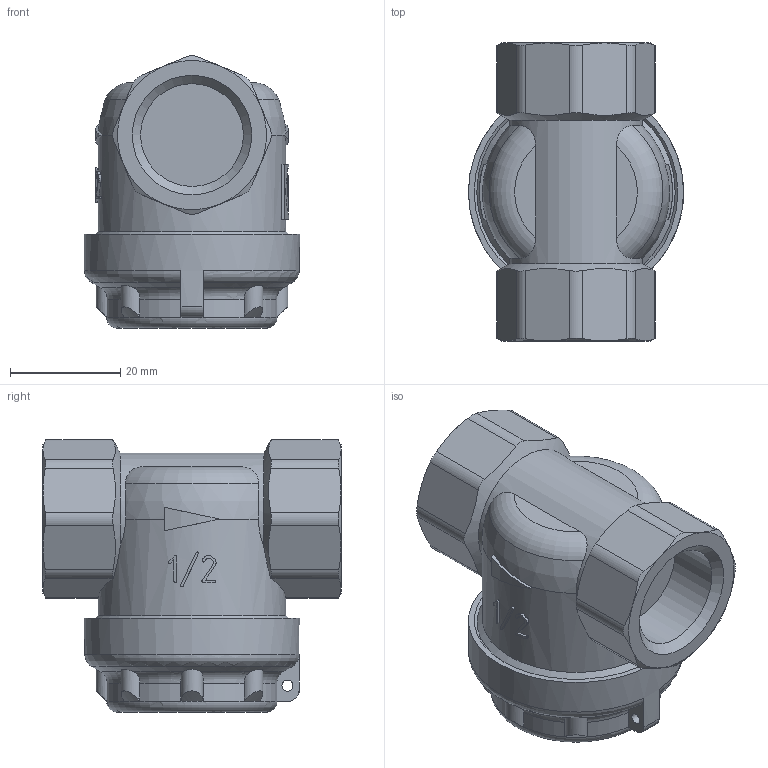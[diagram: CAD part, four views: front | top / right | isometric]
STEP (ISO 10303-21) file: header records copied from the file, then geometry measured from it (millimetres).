
FILE_DESCRIPTION(('STEP AP203'), '1');
FILE_NAME('覆.061146.011.000 捘 - VT.388.N.04', '2024-06-18T13:41:33', ('User'), ('Vesta'), 'C3D Converter', 'C3D Toolkit', '');
FILE_SCHEMA(('CONFIG_CONTROL_DESIGN'));
Length unit declared in the file: millimetre
Products named in the file (1): ВР.061146.011.000 СБ
Bounding box: 39 x 54 x 49.37 mm (x, y, z)
Volume: 60243.4 mm3; surface area: 13943.7 mm2
Topology: 2 solids, 4 shells, 210 faces, 542 edges, 349 vertices
Faces by surface type: plane 71, cylinder 52, extrusion 42, cone 30, torus 13, sphere 2
Full cylindrical faces by diameter (mm): 2 x1, 18.632 x2, 30.5 x1, 34 x1, 35 x1, 39 x1
Entity records: 11509 total; most frequent: CARTESIAN_POINT 6875, ORIENTED_EDGE 1058, DIRECTION 760, EDGE_CURVE 529, VERTEX_POINT 349, AXIS2_PLACEMENT_3D 279, B_SPLINE_CURVE_WITH_KNOTS 258, EDGE_LOOP 234
